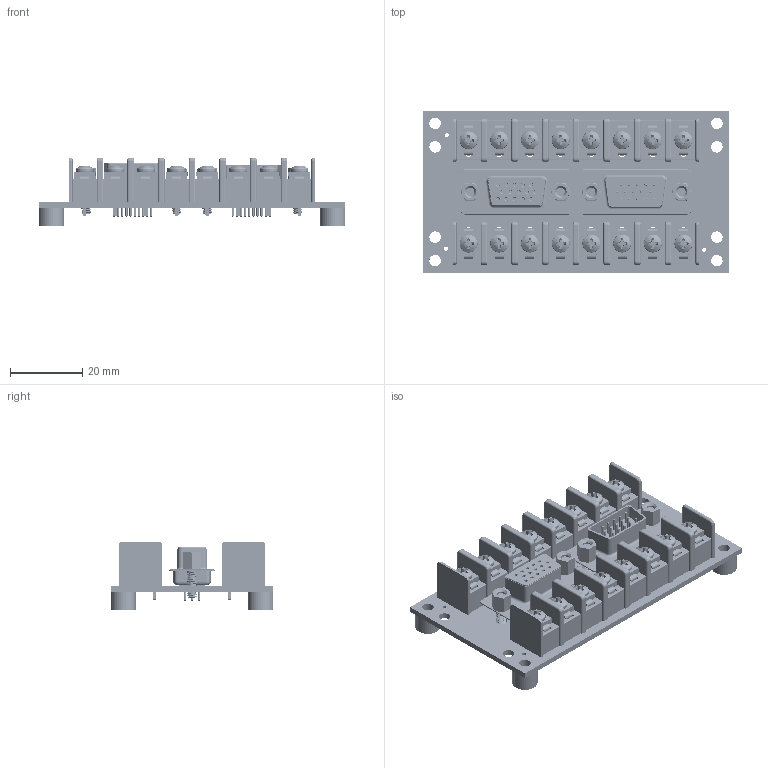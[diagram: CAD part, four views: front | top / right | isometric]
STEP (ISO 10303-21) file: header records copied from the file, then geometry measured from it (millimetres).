
FILE_DESCRIPTION(('FreeCAD Model'),'2;1');
FILE_NAME('Open CASCADE Shape Model','2025-07-16T22:07:50',(''),(''), 'Open CASCADE STEP processor 7.6','FreeCAD','Unknown');
FILE_SCHEMA(('AUTOMOTIVE_DESIGN { 1 0 10303 214 1 1 1 1 }'));
Length unit declared in the file: millimetre
Products named in the file (25): DE15MF_TB_V2; BotV_9236; ${REFERENCE}_Body_null; DE15MF-TB-V2; Local_CS_9236; Board_Geoms_9236; Pcb_9236; PCB_Sketch_9236; botSilks_8f52; topSilks_8286; Step_Models_9236; Top_9236; TB3_User Library-KF8500-4P_null; K8500 1S; K8500 Midlle Block; K8500 Wall; K8500 Pad; K8500 Washer; M3x6mm_92005A066; K8500 1S001; K8500 1S002; K8500 1S003; Male_DSUB-15-HD_Male_Vertical_P2.29x1.98mm_MountingHoles_null; Male_74m9499_5205818-2_null[2]; Female_DSUB-15-HD_Female_Vertical_P2.29x1.98mm_MountingHoles_null
Assembly tree (52 placements, depth 7):
  DE15MF_TB_V2
    BotV_9236
      ${REFERENCE}_Body_null  x4
    DE15MF-TB-V2
      Local_CS_9236
      Board_Geoms_9236
        Pcb_9236
        PCB_Sketch_9236
        botSilks_8f52
        topSilks_8286
      Step_Models_9236
        Top_9236
          TB3_User Library-KF8500-4P_null  x4
            K8500 1S
              K8500 Midlle Block
              K8500 Wall  x2
              K8500 Pad
              K8500 Washer
              M3x6mm_92005A066
            K8500 1S001
              K8500 Midlle Block
              K8500 Wall  x2
              K8500 Pad
              K8500 Washer
              M3x6mm_92005A066
            K8500 1S002
              K8500 Midlle Block
              K8500 Wall  x2
              K8500 Pad
              K8500 Washer
              M3x6mm_92005A066
            K8500 1S003
              K8500 Midlle Block
              K8500 Wall  x2
              K8500 Pad
              K8500 Washer
              M3x6mm_92005A066
          Male_DSUB-15-HD_Male_Vertical_P2.29x1.98mm_MountingHoles_null
          Male_74m9499_5205818-2_null[2]  x4
          Female_DSUB-15-HD_Female_Vertical_P2.29x1.98mm_MountingHoles_null
Bounding box: 85 x 45 x 19 mm (x, y, z)
Volume: 22332.4 mm3; surface area: 39085.1 mm2
Topology: 107 solids, 209 shells, 3602 faces, 23273 edges, 19753 vertices
Faces by surface type: cylinder 1596, plane 1438, bspline 240, cone 235, torus 77, sphere 8, revolution 8
Full cylindrical faces by diameter (mm): 0.64 x60, 0.853 x15, 1 x30, 1.152 x3, 1.7 x16, 3.2 x20, 7 x4
Entity records: 142797 total; most frequent: CARTESIAN_POINT 36796, DIRECTION 17821, ORIENTED_EDGE 17341, EDGE_CURVE 15723, LINE 14799, VECTOR 14799, VERTEX_POINT 14783, AXIS2_PLACEMENT_3D 1507
